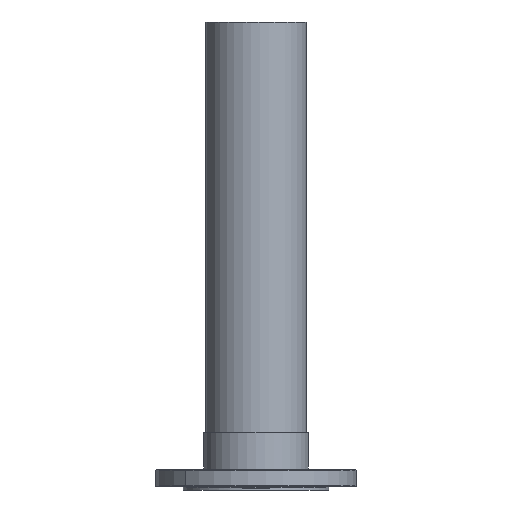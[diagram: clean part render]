
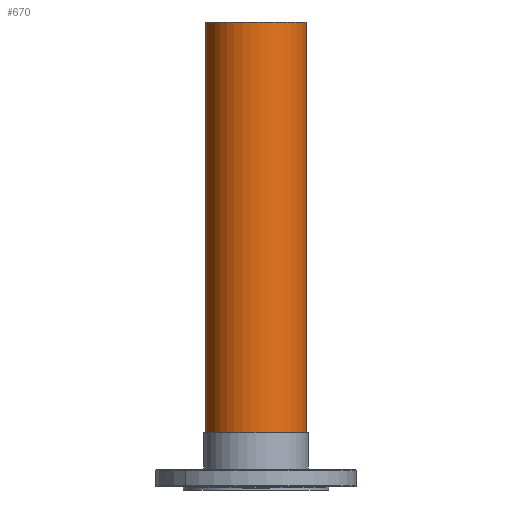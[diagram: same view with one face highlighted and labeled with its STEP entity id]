
A CAD part, front view. The second image highlights one B-rep face of the part: STEP entity #670.
In plain terms, the highlighted cylindrical face has radius 55.25 mm (diameter 110.5 mm), a partial arc.
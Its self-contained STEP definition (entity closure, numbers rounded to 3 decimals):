
#223 = VERTEX_POINT ( 'NONE', #1497 ) ;
#225 = VERTEX_POINT ( 'NONE', #1515 ) ;
#323 = EDGE_CURVE ( 'NONE', #223, #325, #1740, .T. ) ;
#324 = VERTEX_POINT ( 'NONE', #1741 ) ;
#325 = VERTEX_POINT ( 'NONE', #1734 ) ;
#330 = EDGE_CURVE ( 'NONE', #225, #324, #1727, .T. ) ;
#517 = EDGE_CURVE ( 'NONE', #225, #223, #1994, .T. ) ;
#539 = EDGE_LOOP ( 'NONE', ( #672, #669, #671, #805 ) ) ;
#653 = EDGE_CURVE ( 'NONE', #324, #325, #2343, .T. ) ;
#669 = ORIENTED_EDGE ( 'NONE', *, *, #517, .F. ) ;
#670 = ADVANCED_FACE ( 'NONE', ( #2337 ), #2283, .T. ) ;
#671 = ORIENTED_EDGE ( 'NONE', *, *, #330, .T. ) ;
#672 = ORIENTED_EDGE ( 'NONE', *, *, #323, .F. ) ;
#805 = ORIENTED_EDGE ( 'NONE', *, *, #653, .T. ) ;
#1497 = CARTESIAN_POINT ( 'NONE',  ( 6.451, 11.982, 502.758 ) ) ;
#1515 = CARTESIAN_POINT ( 'NONE',  ( -103.58, 22.16, 502.758 ) ) ;
#1726 = CARTESIAN_POINT ( 'NONE',  ( -103.58, 22.16, 502.758 ) ) ;
#1727 = LINE ( 'NONE', #1726, #1771 ) ;
#1731 = DIRECTION ( 'NONE',  ( 0., 0., -1. ) ) ;
#1732 = VECTOR ( 'NONE', #1731, 1000. ) ;
#1733 = CARTESIAN_POINT ( 'NONE',  ( 6.451, 11.982, 502.758 ) ) ;
#1734 = CARTESIAN_POINT ( 'NONE',  ( 6.451, 11.982, 2.758 ) ) ;
#1740 = LINE ( 'NONE', #1733, #1732 ) ;
#1741 = CARTESIAN_POINT ( 'NONE',  ( -103.58, 22.16, 2.758 ) ) ;
#1770 = DIRECTION ( 'NONE',  ( 0., 0., -1. ) ) ;
#1771 = VECTOR ( 'NONE', #1770, 1000. ) ;
#1994 = CIRCLE ( 'NONE', #2021, 55.25 ) ;
#2019 = DIRECTION ( 'NONE',  ( 0., 0., 1. ) ) ;
#2020 = CARTESIAN_POINT ( 'NONE',  ( -48.564, 17.071, 502.758 ) ) ;
#2021 = AXIS2_PLACEMENT_3D ( 'NONE', #2020, #2019, #2063 ) ;
#2063 = DIRECTION ( 'NONE',  ( 0.996, -0.092, 0. ) ) ;
#2219 = AXIS2_PLACEMENT_3D ( 'NONE', #2342, #2341, #2340 ) ;
#2245 = DIRECTION ( 'NONE',  ( -0.996, 0.092, 0. ) ) ;
#2246 = DIRECTION ( 'NONE',  ( 0., 0., -1. ) ) ;
#2248 = AXIS2_PLACEMENT_3D ( 'NONE', #2274, #2246, #2245 ) ;
#2274 = CARTESIAN_POINT ( 'NONE',  ( -48.564, 17.071, 502.758 ) ) ;
#2283 = CYLINDRICAL_SURFACE ( 'NONE', #2248, 55.25 ) ;
#2337 = FACE_OUTER_BOUND ( 'NONE', #539, .T. ) ;
#2340 = DIRECTION ( 'NONE',  ( 0.996, -0.092, 0. ) ) ;
#2341 = DIRECTION ( 'NONE',  ( 0., 0., 1. ) ) ;
#2342 = CARTESIAN_POINT ( 'NONE',  ( -48.564, 17.071, 2.758 ) ) ;
#2343 = CIRCLE ( 'NONE', #2219, 55.25 ) ;
